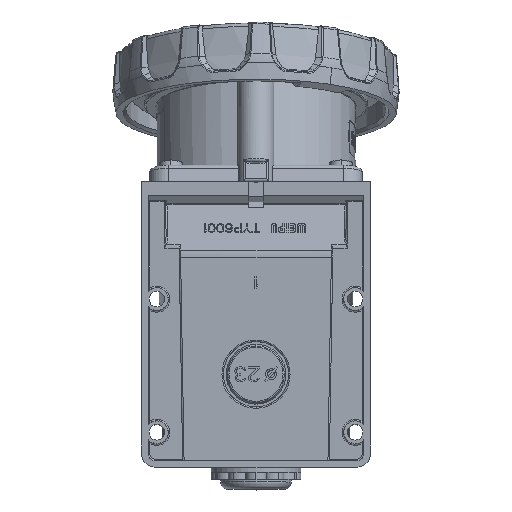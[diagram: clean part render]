
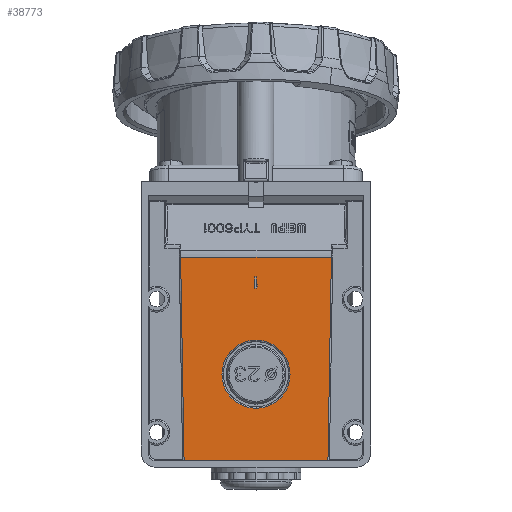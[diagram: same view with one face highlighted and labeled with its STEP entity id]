
A CAD part, top view. The second image highlights one B-rep face of the part: STEP entity #38773.
In plain terms, the highlighted planar face has unit normal (0, 0, 1).
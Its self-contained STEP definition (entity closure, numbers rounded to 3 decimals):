
#8505=CARTESIAN_POINT('',(-25.384,2.5,3.215));
#9036=CARTESIAN_POINT('',(26.593,74.202,3.215));
#9038=DIRECTION('',(-1.,0.,0.));
#9039=VECTOR('',#9038,53.186);
#9040=CARTESIAN_POINT('',(26.593,74.202,3.215));
#9041=LINE('',#9040,#9039);
#9042=CARTESIAN_POINT('',(-26.593,74.202,3.215));
#9134=DIRECTION('',(-0.017,-1.,0.));
#9135=VECTOR('',#9134,71.713);
#9136=CARTESIAN_POINT('',(26.593,74.202,3.215));
#9137=LINE('',#9136,#9135);
#9138=DIRECTION('',(-1.,0.,0.));
#9139=VECTOR('',#9138,50.768);
#9140=CARTESIAN_POINT('',(25.384,2.5,3.215));
#9141=LINE('',#9140,#9139);
#9142=DIRECTION('',(-0.017,1.,0.));
#9143=VECTOR('',#9142,71.713);
#9144=CARTESIAN_POINT('',(-25.384,2.5,3.215));
#9145=LINE('',#9144,#9143);
#9146=CARTESIAN_POINT('',(0.,33.,3.215));
#9147=DIRECTION('',(0.,0.,1.));
#9148=DIRECTION('',(0.,1.,0.));
#9149=AXIS2_PLACEMENT_3D('',#9146,#9147,#9148);
#9151=CARTESIAN_POINT('',(0.,33.,3.215));
#9152=DIRECTION('',(0.,0.,1.));
#9153=DIRECTION('',(0.,-1.,0.));
#9154=AXIS2_PLACEMENT_3D('',#9151,#9152,#9153);
#9156=DIRECTION('',(0.643,0.766,0.));
#9157=VECTOR('',#9156,0.778);
#9158=CARTESIAN_POINT('',(0.001,63.329,3.215));
#9159=LINE('',#9158,#9157);
#9160=DIRECTION('',(-0.643,-0.766,0.));
#9161=VECTOR('',#9160,0.778);
#9162=CARTESIAN_POINT('',(0.501,64.606,3.215));
#9163=LINE('',#9162,#9161);
#10473=DIRECTION('',(0.,1.,0.));
#10474=VECTOR('',#10473,4.);
#10475=CARTESIAN_POINT('',(-0.499,63.329,
3.215));
#10476=LINE('',#10475,#10474);
#10481=DIRECTION('',(1.,0.,0.));
#10482=VECTOR('',#10481,0.5);
#10483=CARTESIAN_POINT('',(-0.499,67.329,
3.215));
#10484=LINE('',#10483,#10482);
#10489=DIRECTION('',(0.,-1.,0.));
#10490=VECTOR('',#10489,3.319);
#10491=CARTESIAN_POINT('',(0.001,67.329,
3.215));
#10492=LINE('',#10491,#10490);
#10501=DIRECTION('',(0.,-1.,0.));
#10502=VECTOR('',#10501,0.681);
#10503=CARTESIAN_POINT('',(0.501,64.606,
3.215));
#10504=LINE('',#10503,#10502);
#10513=DIRECTION('',(-1.,0.,0.));
#10514=VECTOR('',#10513,0.5);
#10515=CARTESIAN_POINT('',(0.001,63.329,
3.215));
#10516=LINE('',#10515,#10514);
#21797=VERTEX_POINT('',#9042);
#21798=VERTEX_POINT('',#9036);
#21869=VERTEX_POINT('',#8505);
#21870=CARTESIAN_POINT('',(25.384,2.5,3.215));
#21871=VERTEX_POINT('',#21870);
#21873=CARTESIAN_POINT('',(0.,45.026,3.215));
#21874=CARTESIAN_POINT('',(0.,20.974,3.215));
#21875=VERTEX_POINT('',#21873);
#21876=VERTEX_POINT('',#21874);
#21877=CARTESIAN_POINT('',(-0.499,63.329,
3.215));
#21878=CARTESIAN_POINT('',(-0.499,67.329,
3.215));
#21879=VERTEX_POINT('',#21877);
#21880=VERTEX_POINT('',#21878);
#21881=CARTESIAN_POINT('',(0.001,63.329,
3.215));
#21882=VERTEX_POINT('',#21881);
#21883=CARTESIAN_POINT('',(0.501,63.925,
3.215));
#21884=VERTEX_POINT('',#21883);
#21885=CARTESIAN_POINT('',(0.501,64.606,
3.215));
#21886=VERTEX_POINT('',#21885);
#21887=CARTESIAN_POINT('',(0.001,64.01,
3.215));
#21888=VERTEX_POINT('',#21887);
#21889=CARTESIAN_POINT('',(0.001,67.329,
3.215));
#21890=VERTEX_POINT('',#21889);
#38739=CARTESIAN_POINT('',(-27.5,75.19,3.215));
#38740=DIRECTION('',(0.,0.,1.));
#38741=DIRECTION('',(0.,-1.,0.));
#38742=AXIS2_PLACEMENT_3D('',#38739,#38740,#38741);
#38743=PLANE('',#38742);
#38744=ORIENTED_EDGE('',*,*,#37462,.T.);
#38745=ORIENTED_EDGE('',*,*,#37480,.T.);
#38747=ORIENTED_EDGE('',*,*,#38746,.T.);
#38748=ORIENTED_EDGE('',*,*,#38523,.F.);
#38749=EDGE_LOOP('',(#38744,#38745,#38747,#38748));
#38750=FACE_OUTER_BOUND('',#38749,.F.);
#38752=ORIENTED_EDGE('',*,*,#38751,.T.);
#38754=ORIENTED_EDGE('',*,*,#38753,.T.);
#38755=EDGE_LOOP('',(#38752,#38754));
#38756=FACE_BOUND('',#38755,.F.);
#38758=ORIENTED_EDGE('',*,*,#38757,.F.);
#38760=ORIENTED_EDGE('',*,*,#38759,.F.);
#38762=ORIENTED_EDGE('',*,*,#38761,.T.);
#38764=ORIENTED_EDGE('',*,*,#38763,.F.);
#38766=ORIENTED_EDGE('',*,*,#38765,.T.);
#38768=ORIENTED_EDGE('',*,*,#38767,.F.);
#38770=ORIENTED_EDGE('',*,*,#38769,.F.);
#38771=EDGE_LOOP('',(#38758,#38760,#38762,#38764,#38766,#38768,#38770));
#38772=FACE_BOUND('',#38771,.F.);
#38773=ADVANCED_FACE('',(#38750,#38756,#38772),#38743,.T.);
#9150=CIRCLE('',#9149,12.026);
#9155=CIRCLE('',#9154,12.026);
#37462=EDGE_CURVE('',#21798,#21871,#9137,.T.);
#37480=EDGE_CURVE('',#21871,#21869,#9141,.T.);
#38523=EDGE_CURVE('',#21798,#21797,#9041,.T.);
#38746=EDGE_CURVE('',#21869,#21797,#9145,.T.);
#38751=EDGE_CURVE('',#21875,#21876,#9150,.T.);
#38753=EDGE_CURVE('',#21876,#21875,#9155,.T.);
#38757=EDGE_CURVE('',#21879,#21880,#10476,.T.);
#38759=EDGE_CURVE('',#21882,#21879,#10516,.T.);
#38761=EDGE_CURVE('',#21882,#21884,#9159,.T.);
#38763=EDGE_CURVE('',#21886,#21884,#10504,.T.);
#38765=EDGE_CURVE('',#21886,#21888,#9163,.T.);
#38767=EDGE_CURVE('',#21890,#21888,#10492,.T.);
#38769=EDGE_CURVE('',#21880,#21890,#10484,.T.);
